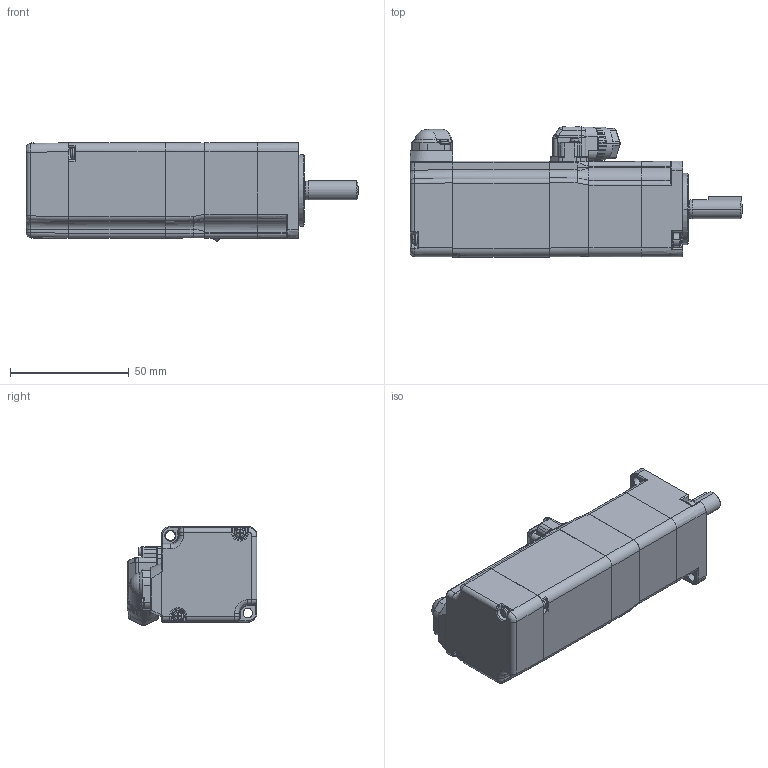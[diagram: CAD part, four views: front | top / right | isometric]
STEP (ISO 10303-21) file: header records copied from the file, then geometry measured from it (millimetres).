
FILE_DESCRIPTION( (''), '2;1');
FILE_NAME ('SGMXJ-01AUA6EC2.stp','2022-03-02T11:24:44',(''),(''),'spGate 15.6.6','','');
FILE_SCHEMA (('AUTOMOTIVE_DESIGN'));
Length unit declared in the file: millimetre
Products named in the file (10): Assembly; SGMXJ-01AUA6EC2-prt0; SGMXJ-01AUA6EC2-prt1; SGMXJ-01AUA6EC2-prt2; SGMXJ-01AUA6EC2-prt3; SGMXJ-01AUA6EC2-prt4; SGMXJ-01AUA6EC2-prt5; SGMXJ-01AUA6EC2-prt6; SGMXJ-01AUA6EC2-prt7; SGMXJ-01AUA6EC2-prt8
Assembly tree (9 placements, depth 2):
  Assembly
    SGMXJ-01AUA6EC2-prt0
    SGMXJ-01AUA6EC2-prt1
    SGMXJ-01AUA6EC2-prt2
    SGMXJ-01AUA6EC2-prt3
    SGMXJ-01AUA6EC2-prt4
    SGMXJ-01AUA6EC2-prt5
    SGMXJ-01AUA6EC2-prt6
    SGMXJ-01AUA6EC2-prt7
    SGMXJ-01AUA6EC2-prt8
Bounding box: 139.5 x 54.6 x 41.61 mm (x, y, z)
Volume: 180978.9 mm3; surface area: 27213.5 mm2
Topology: 4 solids, 9 shells, 805 faces, 2133 edges, 1328 vertices
Faces by surface type: plane 338, cylinder 254, bspline 188, sphere 25
Entity records: 45517 total; most frequent: CARTESIAN_POINT 9822, ORIENTED_EDGE 4132, DIRECTION 3750, COLOUR_RGB 2929, PRESENTATION_STYLE_ASSIGNMENT 2929, STYLED_ITEM 2929, EDGE_CURVE 2115, DRAUGHTING_PRE_DEFINED_CURVE_FONT 2115
